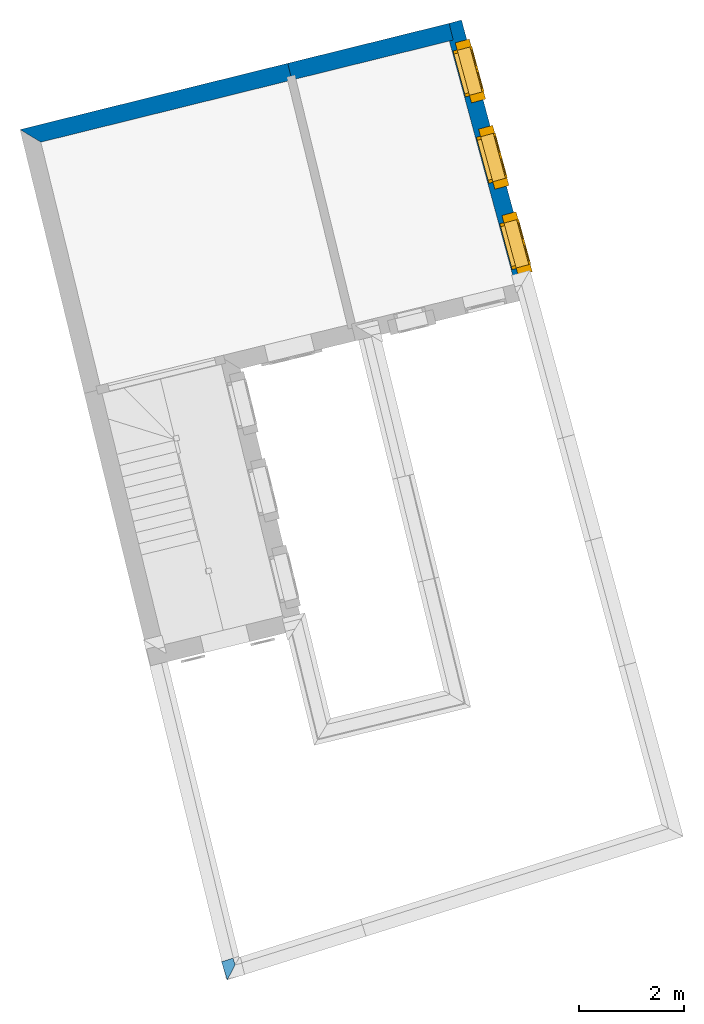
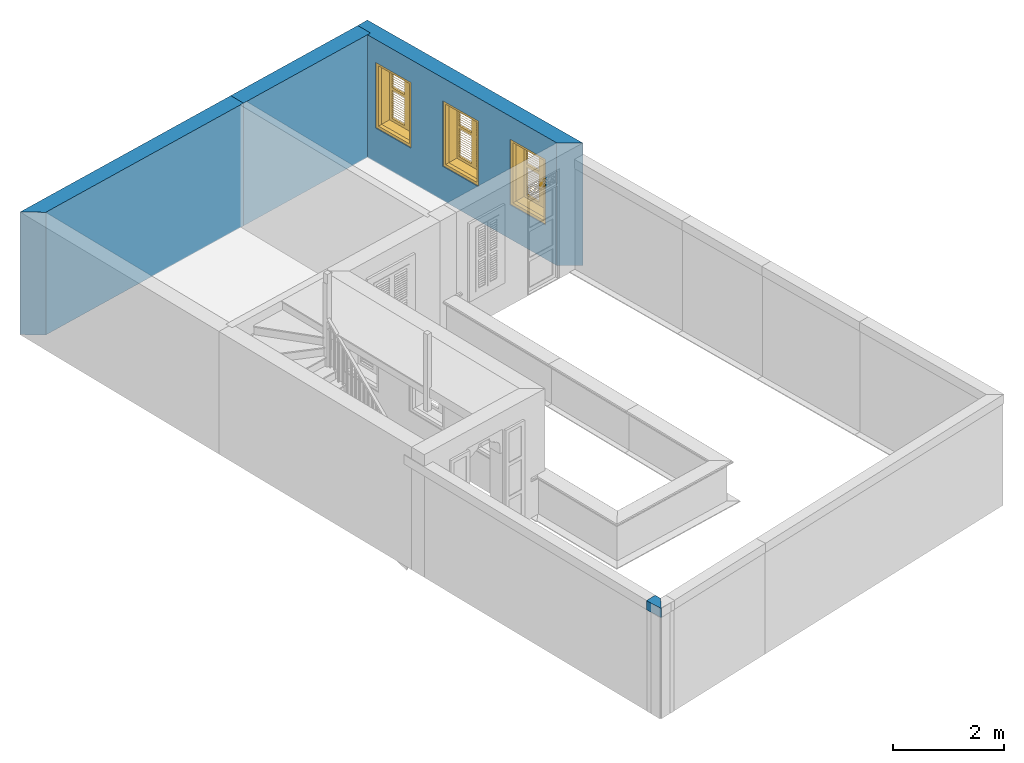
# One storey, part 8 of 9: 4 walls, 3 windows, 3 openings.
"""IFC4 building model written with IfcOpenShell, lengths in metres."""

from ifc_helpers import new_model, si_unit, frame, origin, origin_with_axes, place, context, subcontext, project, spatial, polyline, outline, extrude, clip, halfspace, faceted_brep, source, transform, mapped, material, layer, layer_set, layer_usage, material_profile, profile_set, profile_usage, type_object, type_shapes, element, fill, save


model = new_model("IFC4")

# Units and contexts
model_context = context("Model", 3, world=origin_with_axes())
body_context = subcontext(model_context, "Body", "Model", "MODEL_VIEW")
ifc_project = project(units=[si_unit("PLANEANGLEUNIT", "RADIAN"), si_unit("MASSUNIT", "GRAM", prefix="KILO"), si_unit("FORCEUNIT", "NEWTON", prefix="KILO"), si_unit("LENGTHUNIT", "METRE"), si_unit("AREAUNIT", "SQUARE_METRE"), si_unit("VOLUMEUNIT", "CUBIC_METRE")], contexts=[model_context, model_context])

# Site, building, storey
site_placement = place(None, origin_with_axes())
site = spatial("IfcSite", under=ifc_project, at=site_placement, Name="Site plot-4", CompositionType="ELEMENT")
building_placement = place(None, origin_with_axes())
building = spatial("IfcBuilding", under=site, at=building_placement, Name="Building plot-4", CompositionType="ELEMENT")
storey_placement = place(None, frame((0.0, 0.0, 2.7), z_axis=(0.0, 0.0, 1.0), x_axis=(1.0, 0.0, 0.0)))
storey = spatial("IfcBuildingStorey", under=building, at=storey_placement, Name="plot-4 1", CompositionType="ELEMENT", Elevation=2.7)

# Wall, openings, windows
ifc_material_1 = material(Name="Masonry")
ifc_layer_1 = layer(ifc_material_1, 0.33, ventilated=False)
ifc_layer_set_1 = layer_set([ifc_layer_1], Name="exterior_0.08_0.25")
ifc_layer_usage_1 = layer_usage(ifc_layer_set_1, "AXIS2", "POSITIVE", -0.25)
wall_type_1 = type_object("IfcWallType", Name="exterior_0.08_0.25", PredefinedType="SOLIDWALL", material=ifc_layer_set_1)
wall_1_placement = place(storey_placement, frame((26.6183209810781, 16.4019264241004, 0.0), z_axis=(0.0, 0.0, 1.0), x_axis=(-0.261170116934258, 0.965292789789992, 0.0)))
wall_1 = element("IfcWall", 1, at=wall_1_placement, inside=storey, type_object=wall_type_1, material=ifc_layer_usage_1, Name="exterior", context=body_context, shape_type="SweptSolid", body=[
    extrude(outline(polyline([(0.0820550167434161, 0.0799999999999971), (-0.256421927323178, -0.249999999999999), (5.22469834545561, -0.250000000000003), (5.22469834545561, 0.0799999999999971), (0.0820550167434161, 0.0799999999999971)])), origin_with_axes(), (0.0, 0.0, 1.0), 2.7),
])
opening_1_placement = place(wall_1_placement, frame((0.364698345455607, 0.0, 0.75)))
opening_1 = element("IfcOpeningElement", 2, at=opening_1_placement, cuts=wall_1, Name="My Opening", ObjectType="Opening", context=body_context, shape_type="SweptSolid", body=[
    extrude(outline(polyline([(0.0, -0.27), (0.909999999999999, -0.270000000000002), (0.910000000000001, 1.1), (1.99840144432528e-15, 1.1), (0.0, -0.27)])), origin_with_axes(), (0.0, 0.0, 1.0), 1.445),
])
opening_2_placement = place(wall_1_placement, frame((2.0746983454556, 0.0, 0.75)))
opening_2 = element("IfcOpeningElement", 3, at=opening_2_placement, cuts=wall_1, Name="My Opening", ObjectType="Opening", context=body_context, shape_type="SweptSolid", body=[
    extrude(outline(polyline([(0.0, -0.269999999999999), (0.91, -0.270000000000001), (0.910000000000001, 1.1), (1.77635683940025e-15, 1.1), (0.0, -0.269999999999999)])), origin_with_axes(), (0.0, 0.0, 1.0), 1.445),
])
opening_3_placement = place(wall_1_placement, frame((3.7846983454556, 0.0, 0.75)))
opening_3 = element("IfcOpeningElement", 4, at=opening_3_placement, cuts=wall_1, Name="My Opening", ObjectType="Opening", context=body_context, shape_type="SweptSolid", body=[
    extrude(outline(polyline([(0.0, -0.269999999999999), (0.91, -0.270000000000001), (0.910000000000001, 1.1), (1.77635683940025e-15, 1.1), (0.0, -0.269999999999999)])), origin_with_axes(), (0.0, 0.0, 1.0), 1.445),
])
window_type = type_object("IfcWindowType", Name="shuttered_shorter", PartitioningType="DOUBLE_PANEL_HORIZONTAL", PredefinedType="NOTDEFINED")
shared_shape = source(origin(), body_context, "Body", "Brep", [
    faceted_brep([(0.393, 0.0, 0.622), (0.074, 0.0, 0.622), (0.074, 0.0, 0.632), (0.393, 0.0, 0.632), (0.074, -0.04, 0.592), (0.393, -0.04, 0.592), (0.393, -0.04, 0.582), (0.074, -0.04, 0.582), (0.517, 0.0, 0.682), (0.836, 0.0, 0.682), (0.836, 0.0, 0.672), (0.517, 0.0, 0.672), (0.517, -0.04, 0.642), (0.836, -0.04, 0.642), (0.836, -0.04, 0.632), (0.517, -0.04, 0.632), (0.517, 0.0, 0.632), (0.836, 0.0, 0.632), (0.836, 0.0, 0.622), (0.517, 0.0, 0.622), (0.517, -0.04, 0.592), (0.836, -0.04, 0.592), (0.836, -0.04, 0.582), (0.517, -0.04, 0.582), (0.517, 0.0, 0.232), (0.836, 0.0, 0.232), (0.836, 0.0, 0.222), (0.517, 0.0, 0.222), (0.517, -0.04, 0.192), (0.836, -0.04, 0.192), (0.836, -0.04, 0.182), (0.517, -0.04, 0.182), (0.517, 0.0, 0.532), (0.836, 0.0, 0.532), (0.836, 0.0, 0.522), (0.517, 0.0, 0.522), (0.517, -0.04, 0.492), (0.836, -0.04, 0.492), (0.836, -0.04, 0.482), (0.517, -0.04, 0.482), (0.517, 0.0, 0.482), (0.836, 0.0, 0.482), (0.836, 0.0, 0.472), (0.517, 0.0, 0.472), (0.517, -0.04, 0.442), (0.836, -0.04, 0.442), (0.836, -0.04, 0.432), (0.517, -0.04, 0.432), (0.517, 0.0, 0.582), (0.836, 0.0, 0.582), (0.836, 0.0, 0.572), (0.517, 0.0, 0.572), (0.517, -0.04, 0.542), (0.836, -0.04, 0.542), (0.836, -0.04, 0.532), (0.517, -0.04, 0.532), (0.517, 0.0, 0.182), (0.836, 0.0, 0.182), (0.836, 0.0, 0.172), (0.517, 0.0, 0.172), (0.517, -0.04, 0.142), (0.836, -0.04, 0.142), (0.836, -0.04, 0.132), (0.517, -0.04, 0.132), (0.517, 0.0, 0.382), (0.836, 0.0, 0.382), (0.836, 0.0, 0.372), (0.517, 0.0, 0.372), (0.517, -0.04, 0.342), (0.836, -0.04, 0.342), (0.836, -0.04, 0.332), (0.517, -0.04, 0.332), (0.517, 0.0, 0.432), (0.836, 0.0, 0.432), (0.836, 0.0, 0.422), (0.517, 0.0, 0.422), (0.517, -0.04, 0.392), (0.836, -0.04, 0.392), (0.836, -0.04, 0.382), (0.517, -0.04, 0.382), (0.517, 0.0, 0.132), (0.836, 0.0, 0.132), (0.836, 0.0, 0.122), (0.517, 0.0, 0.122), (0.517, -0.04, 0.092), (0.836, -0.04, 0.092), (0.836, -0.04, 0.082), (0.517, -0.04, 0.082), (0.517, 0.0, 0.282), (0.836, 0.0, 0.282), (0.836, 0.0, 0.272), (0.517, 0.0, 0.272), (0.517, -0.04, 0.242), (0.836, -0.04, 0.242), (0.836, -0.04, 0.232), (0.517, -0.04, 0.232), (0.517, 0.0, 0.332), (0.836, 0.0, 0.332), (0.836, 0.0, 0.322), (0.517, 0.0, 0.322), (0.517, -0.04, 0.292), (0.836, -0.04, 0.292), (0.836, -0.04, 0.282), (0.517, -0.04, 0.282), (0.517, 0.0, 1.362667), (0.836, 0.0, 1.362667), (0.836, 0.0, 1.352667), (0.517, 0.0, 1.352667), (0.517, -0.04, 1.322667), (0.836, -0.04, 1.322667), (0.836, -0.04, 1.312667), (0.517, -0.04, 1.312667), (0.517, 0.0, 1.312667), (0.836, 0.0, 1.312667), (0.836, 0.0, 1.302667), (0.517, 0.0, 1.302667), (0.517, -0.04, 1.272667), (0.836, -0.04, 1.272667), (0.836, -0.04, 1.262667), (0.517, -0.04, 1.262667), (0.517, 0.0, 0.912667), (0.836, 0.0, 0.912667), (0.836, 0.0, 0.902667), (0.517, 0.0, 0.902667), (0.517, -0.04, 0.872667), (0.836, -0.04, 0.872667), (0.836, -0.04, 0.862667), (0.517, -0.04, 0.862667), (0.517, 0.0, 1.212667), (0.836, 0.0, 1.212667), (0.836, 0.0, 1.202667), (0.517, 0.0, 1.202667), (0.517, -0.04, 1.172667), (0.836, -0.04, 1.172667), (0.836, -0.04, 1.162667), (0.517, -0.04, 1.162667), (0.517, 0.0, 1.162667), (0.836, 0.0, 1.162667), (0.836, 0.0, 1.152667), (0.517, 0.0, 1.152667), (0.517, -0.04, 1.122667), (0.836, -0.04, 1.122667), (0.836, -0.04, 1.112667), (0.517, -0.04, 1.112667), (0.517, 0.0, 1.262667), (0.836, 0.0, 1.262667), (0.836, 0.0, 1.252667), (0.517, 0.0, 1.252667), (0.517, -0.04, 1.222667), (0.836, -0.04, 1.222667), (0.836, -0.04, 1.212667), (0.517, -0.04, 1.212667), (0.517, 0.0, 0.862667), (0.836, 0.0, 0.862667), (0.836, 0.0, 0.852667), (0.517, 0.0, 0.852667), (0.517, -0.04, 0.822667), (0.836, -0.04, 0.822667), (0.836, -0.04, 0.812667), (0.517, -0.04, 0.812667), (0.517, 0.0, 1.062667), (0.836, 0.0, 1.062667), (0.836, 0.0, 1.052667), (0.517, 0.0, 1.052667), (0.517, -0.04, 1.022667), (0.836, -0.04, 1.022667), (0.836, -0.04, 1.012667), (0.517, -0.04, 1.012667), (0.517, 0.0, 1.112667), (0.836, 0.0, 1.112667), (0.836, 0.0, 1.102667), (0.517, 0.0, 1.102667), (0.517, -0.04, 1.072667), (0.836, -0.04, 1.072667), (0.836, -0.04, 1.062667), (0.517, -0.04, 1.062667), (0.517, 0.0, 0.812667), (0.836, 0.0, 0.812667), (0.836, 0.0, 0.802667), (0.517, 0.0, 0.802667), (0.517, -0.04, 0.772667), (0.836, -0.04, 0.772667), (0.836, -0.04, 0.762667), (0.517, -0.04, 0.762667), (0.517, 0.0, 0.962667), (0.836, 0.0, 0.962667), (0.836, 0.0, 0.952667), (0.517, 0.0, 0.952667), (0.517, -0.04, 0.922667), (0.836, -0.04, 0.922667), (0.836, -0.04, 0.912667), (0.517, -0.04, 0.912667), (0.517, 0.0, 1.012667), (0.836, 0.0, 1.012667), (0.836, 0.0, 1.002667), (0.517, 0.0, 1.002667), (0.517, -0.04, 0.972667), (0.836, -0.04, 0.972667), (0.836, -0.04, 0.962667), (0.517, -0.04, 0.962667), (0.074, 0.0, 0.682), (0.393, 0.0, 0.682), (0.393, 0.0, 0.672), (0.074, 0.0, 0.672), (0.074, -0.04, 0.642), (0.393, -0.04, 0.642), (0.393, -0.04, 0.632), (0.074, -0.04, 0.632), (0.074, 0.0, 0.232), (0.393, 0.0, 0.232), (0.393, 0.0, 0.222), (0.074, 0.0, 0.222), (0.074, -0.04, 0.192), (0.393, -0.04, 0.192), (0.393, -0.04, 0.182), (0.074, -0.04, 0.182), (0.074, 0.0, 0.532), (0.393, 0.0, 0.532), (0.393, 0.0, 0.522), (0.074, 0.0, 0.522), (0.074, -0.04, 0.492), (0.393, -0.04, 0.492), (0.393, -0.04, 0.482), (0.074, -0.04, 0.482), (0.074, 0.0, 0.482), (0.393, 0.0, 0.482), (0.393, 0.0, 0.472), (0.074, 0.0, 0.472), (0.074, -0.04, 0.442), (0.393, -0.04, 0.442), (0.393, -0.04, 0.432), (0.074, -0.04, 0.432), (0.074, 0.0, 0.582), (0.393, 0.0, 0.582), (0.393, 0.0, 0.572), (0.074, 0.0, 0.572), (0.074, -0.04, 0.542), (0.393, -0.04, 0.542), (0.393, -0.04, 0.532), (0.074, -0.04, 0.532), (0.074, 0.0, 0.182), (0.393, 0.0, 0.182), (0.393, 0.0, 0.172), (0.074, 0.0, 0.172), (0.074, -0.04, 0.142), (0.393, -0.04, 0.142), (0.393, -0.04, 0.132), (0.074, -0.04, 0.132), (0.074, 0.0, 0.382), (0.393, 0.0, 0.382), (0.393, 0.0, 0.372), (0.074, 0.0, 0.372), (0.074, -0.04, 0.342), (0.393, -0.04, 0.342), (0.393, -0.04, 0.332), (0.074, -0.04, 0.332), (0.074, 0.0, 0.432), (0.393, 0.0, 0.432), (0.393, 0.0, 0.422), (0.074, 0.0, 0.422), (0.074, -0.04, 0.392), (0.393, -0.04, 0.392), (0.393, -0.04, 0.382), (0.074, -0.04, 0.382), (0.074, 0.0, 0.132), (0.393, 0.0, 0.132), (0.393, 0.0, 0.122), (0.074, 0.0, 0.122), (0.074, -0.04, 0.092), (0.393, -0.04, 0.092), (0.393, -0.04, 0.082), (0.074, -0.04, 0.082), (0.074, 0.0, 0.282), (0.393, 0.0, 0.282), (0.393, 0.0, 0.272), (0.074, 0.0, 0.272), (0.074, -0.04, 0.242), (0.393, -0.04, 0.242), (0.393, -0.04, 0.232), (0.074, -0.04, 0.232), (0.074, 0.0, 0.332), (0.393, 0.0, 0.332), (0.393, 0.0, 0.322), (0.074, 0.0, 0.322), (0.074, -0.04, 0.292), (0.393, -0.04, 0.292), (0.393, -0.04, 0.282), (0.074, -0.04, 0.282), (0.074, 0.0, 1.362667), (0.393, 0.0, 1.362667), (0.393, 0.0, 1.352667), (0.074, 0.0, 1.352667), (0.074, -0.04, 1.322667), (0.393, -0.04, 1.322667), (0.393, -0.04, 1.312667), (0.074, -0.04, 1.312667), (0.074, 0.0, 1.312667), (0.393, 0.0, 1.312667), (0.393, 0.0, 1.302667), (0.074, 0.0, 1.302667), (0.074, -0.04, 1.272667), (0.393, -0.04, 1.272667), (0.393, -0.04, 1.262667), (0.074, -0.04, 1.262667), (0.074, 0.0, 0.912667), (0.393, 0.0, 0.912667), (0.393, 0.0, 0.902667), (0.074, 0.0, 0.902667), (0.074, -0.04, 0.872667), (0.393, -0.04, 0.872667), (0.393, -0.04, 0.862667), (0.074, -0.04, 0.862667), (0.074, 0.0, 1.212667), (0.393, 0.0, 1.212667), (0.393, 0.0, 1.202667), (0.074, 0.0, 1.202667), (0.074, -0.04, 1.172667), (0.393, -0.04, 1.172667), (0.393, -0.04, 1.162667), (0.074, -0.04, 1.162667), (0.074, 0.0, 1.162667), (0.393, 0.0, 1.162667), (0.393, 0.0, 1.152667), (0.074, 0.0, 1.152667), (0.074, -0.04, 1.122667), (0.393, -0.04, 1.122667), (0.393, -0.04, 1.112667), (0.074, -0.04, 1.112667), (0.074, 0.0, 1.262667), (0.393, 0.0, 1.262667), (0.393, 0.0, 1.252667), (0.074, 0.0, 1.252667), (0.074, -0.04, 1.222667), (0.393, -0.04, 1.222667), (0.393, -0.04, 1.212667), (0.074, -0.04, 1.212667), (0.074, 0.0, 0.862667), (0.393, 0.0, 0.862667), (0.393, 0.0, 0.852667), (0.074, 0.0, 0.852667), (0.074, -0.04, 0.822667), (0.393, -0.04, 0.822667), (0.393, -0.04, 0.812667), (0.074, -0.04, 0.812667), (0.074, 0.0, 1.062667), (0.393, 0.0, 1.062667), (0.393, 0.0, 1.052667), (0.074, 0.0, 1.052667), (0.074, -0.04, 1.022667), (0.393, -0.04, 1.022667), (0.393, -0.04, 1.012667), (0.074, -0.04, 1.012667), (0.074, 0.0, 1.112667), (0.393, 0.0, 1.112667), (0.393, 0.0, 1.102667), (0.074, 0.0, 1.102667), (0.074, -0.04, 1.072667), (0.393, -0.04, 1.072667), (0.393, -0.04, 1.062667), (0.074, -0.04, 1.062667), (0.074, 0.0, 0.812667), (0.393, 0.0, 0.812667), (0.393, 0.0, 0.802667), (0.074, 0.0, 0.802667), (0.074, -0.04, 0.772667), (0.393, -0.04, 0.772667), (0.393, -0.04, 0.762667), (0.074, -0.04, 0.762667), (0.074, 0.0, 0.962667), (0.393, 0.0, 0.962667), (0.393, 0.0, 0.952667), (0.074, 0.0, 0.952667), (0.074, -0.04, 0.922667), (0.393, -0.04, 0.922667), (0.393, -0.04, 0.912667), (0.074, -0.04, 0.912667), (0.074, 0.0, 1.012667), (0.393, 0.0, 1.012667), (0.393, 0.0, 1.002667), (0.074, 0.0, 1.002667), (0.074, -0.04, 0.972667), (0.393, -0.04, 0.972667), (0.393, -0.04, 0.962667), (0.074, -0.04, 0.962667), (0.517, -0.04, 0.072), (0.457, -0.04, 0.012), (0.896, -0.04, 0.012), (0.836, -0.04, 0.072), (0.457, -0.04, 0.692667), (0.517, -0.04, 0.692667), (0.457, 0.0, 0.012), (0.896, 0.0, 0.012), (0.836, -0.04, 0.692667), (0.896, -0.04, 0.692667), (0.836, 0.0, 0.072), (0.517, 0.0, 0.072), (0.457, 0.0, 0.692667), (0.517, 0.0, 0.692667), (0.517, -0.04, 0.752666), (0.457, -0.04, 0.752666), (0.896, 0.0, 0.692667), (0.836, 0.0, 0.692667), (0.836, -0.04, 0.752666), (0.896, -0.04, 0.752666), (0.457, 0.0, 0.752666), (0.457, -0.04, 1.433333), (0.517, -0.04, 1.373333), (0.896, 0.0, 0.752666), (0.836, -0.04, 1.373333), (0.896, -0.04, 1.433333), (0.457, 0.0, 1.433333), (0.517, 0.0, 0.752666), (0.836, 0.0, 0.752666), (0.517, 0.0, 1.373333), (0.896, 0.0, 1.433333), (0.836, 0.0, 1.373333), (0.074, -0.04, 0.072), (0.014, -0.04, 0.012), (0.453, -0.04, 0.012), (0.393, -0.04, 0.072), (0.014, -0.04, 0.692667), (0.074, -0.04, 0.692667), (0.014, 0.0, 0.012), (0.453, 0.0, 0.012), (0.393, -0.04, 0.692667), (0.453, -0.04, 0.692667), (0.393, 0.0, 0.072), (0.074, 0.0, 0.072), (0.014, 0.0, 0.692667), (0.074, 0.0, 0.692667), (0.074, -0.04, 0.752666), (0.014, -0.04, 0.752666), (0.453, 0.0, 0.692667), (0.393, 0.0, 0.692667), (0.393, -0.04, 0.752666), (0.453, -0.04, 0.752666), (0.014, 0.0, 0.752666), (0.014, -0.04, 1.433333), (0.074, -0.04, 1.373333), (0.453, 0.0, 0.752666), (0.393, -0.04, 1.373333), (0.453, -0.04, 1.433333), (0.014, 0.0, 1.433333), (0.074, 0.0, 0.752666), (0.393, 0.0, 0.752666), (0.074, 0.0, 1.373333), (0.453, 0.0, 1.433333), (0.393, 0.0, 1.373333), (0.0, 0.33, 1.445), (0.91, 0.33, 1.445), (0.85, 0.33, 1.385), (0.06, 0.33, 1.385), (0.91, 0.25, 1.445), (0.0, 0.25, 1.445), (0.91, 0.25, 1.445), (0.85, 0.33, 0.06), (0.91, 0.33, 0.0), (0.85, 0.25, 1.385), (0.06, 0.25, 1.385), (0.0, 0.33, 0.0), (0.06, 0.33, 0.06), (0.0, 0.25, 0.0), (0.91, 0.25, 0.0), (0.85, 0.25, 0.06), (0.06, 0.25, 0.06), (1.05, 0.25, 1.585), (-0.14, 0.25, 1.585), (-0.14, -0.03, 1.585), (1.05, -0.03, 1.585), (0.9, -0.03, 1.435), (0.01, -0.03, 1.435), (0.01, 0.25, 1.435), (0.9, 0.25, 1.435), (0.9, 0.25, 0.01), (0.9, -0.03, 0.01), (1.05, -0.03, -0.14), (1.05, 0.25, -0.14), (0.01, -0.03, 0.01), (0.01, 0.25, 0.01), (-0.14, -0.03, -0.14), (-0.14, 0.25, -0.14)], [[[0, 1, 2, 3]], [[4, 5, 3, 2]], [[5, 6, 0, 3]], [[1, 0, 6, 7]], [[2, 1, 7, 4]], [[5, 4, 7, 6]], [[8, 9, 10, 11]], [[12, 13, 9, 8]], [[13, 14, 10, 9]], [[14, 15, 11, 10]], [[15, 12, 8, 11]], [[13, 12, 15, 14]], [[16, 17, 18, 19]], [[20, 21, 17, 16]], [[21, 22, 18, 17]], [[22, 23, 19, 18]], [[23, 20, 16, 19]], [[21, 20, 23, 22]], [[24, 25, 26, 27]], [[28, 29, 25, 24]], [[29, 30, 26, 25]], [[30, 31, 27, 26]], [[31, 28, 24, 27]], [[29, 28, 31, 30]], [[32, 33, 34, 35]], [[36, 37, 33, 32]], [[37, 38, 34, 33]], [[38, 39, 35, 34]], [[39, 36, 32, 35]], [[37, 36, 39, 38]], [[40, 41, 42, 43]], [[44, 45, 41, 40]], [[45, 46, 42, 41]], [[46, 47, 43, 42]], [[47, 44, 40, 43]], [[45, 44, 47, 46]], [[48, 49, 50, 51]], [[52, 53, 49, 48]], [[53, 54, 50, 49]], [[54, 55, 51, 50]], [[55, 52, 48, 51]], [[53, 52, 55, 54]], [[56, 57, 58, 59]], [[60, 61, 57, 56]], [[61, 62, 58, 57]], [[62, 63, 59, 58]], [[63, 60, 56, 59]], [[61, 60, 63, 62]], [[64, 65, 66, 67]], [[68, 69, 65, 64]], [[69, 70, 66, 65]], [[70, 71, 67, 66]], [[71, 68, 64, 67]], [[69, 68, 71, 70]], [[72, 73, 74, 75]], [[76, 77, 73, 72]], [[77, 78, 74, 73]], [[78, 79, 75, 74]], [[79, 76, 72, 75]], [[77, 76, 79, 78]], [[80, 81, 82, 83]], [[84, 85, 81, 80]], [[85, 86, 82, 81]], [[86, 87, 83, 82]], [[87, 84, 80, 83]], [[85, 84, 87, 86]], [[88, 89, 90, 91]], [[92, 93, 89, 88]], [[93, 94, 90, 89]], [[94, 95, 91, 90]], [[95, 92, 88, 91]], [[93, 92, 95, 94]], [[96, 97, 98, 99]], [[100, 101, 97, 96]], [[101, 102, 98, 97]], [[102, 103, 99, 98]], [[103, 100, 96, 99]], [[101, 100, 103, 102]], [[104, 105, 106, 107]], [[108, 109, 105, 104]], [[109, 110, 106, 105]], [[110, 111, 107, 106]], [[111, 108, 104, 107]], [[109, 108, 111, 110]], [[112, 113, 114, 115]], [[116, 117, 113, 112]], [[117, 118, 114, 113]], [[118, 119, 115, 114]], [[119, 116, 112, 115]], [[117, 116, 119, 118]], [[120, 121, 122, 123]], [[124, 125, 121, 120]], [[125, 126, 122, 121]], [[126, 127, 123, 122]], [[127, 124, 120, 123]], [[125, 124, 127, 126]], [[128, 129, 130, 131]], [[132, 133, 129, 128]], [[133, 134, 130, 129]], [[134, 135, 131, 130]], [[135, 132, 128, 131]], [[133, 132, 135, 134]], [[136, 137, 138, 139]], [[140, 141, 137, 136]], [[141, 142, 138, 137]], [[142, 143, 139, 138]], [[139, 143, 140, 136]], [[141, 140, 143, 142]], [[144, 145, 146, 147]], [[148, 149, 145, 144]], [[149, 150, 146, 145]], [[150, 151, 147, 146]], [[151, 148, 144, 147]], [[149, 148, 151, 150]], [[152, 153, 154, 155]], [[156, 157, 153, 152]], [[157, 158, 154, 153]], [[158, 159, 155, 154]], [[159, 156, 152, 155]], [[157, 156, 159, 158]], [[160, 161, 162, 163]], [[164, 165, 161, 160]], [[165, 166, 162, 161]], [[166, 167, 163, 162]], [[167, 164, 160, 163]], [[165, 164, 167, 166]], [[168, 169, 170, 171]], [[172, 173, 169, 168]], [[173, 174, 170, 169]], [[174, 175, 171, 170]], [[175, 172, 168, 171]], [[173, 172, 175, 174]], [[176, 177, 178, 179]], [[180, 181, 177, 176]], [[181, 182, 178, 177]], [[182, 183, 179, 178]], [[183, 180, 176, 179]], [[181, 180, 183, 182]], [[184, 185, 186, 187]], [[188, 189, 185, 184]], [[189, 190, 186, 185]], [[190, 191, 187, 186]], [[191, 188, 184, 187]], [[189, 188, 191, 190]], [[192, 193, 194, 195]], [[196, 197, 193, 192]], [[197, 198, 194, 193]], [[198, 199, 195, 194]], [[199, 196, 192, 195]], [[197, 196, 199, 198]], [[200, 201, 202, 203]], [[204, 205, 201, 200]], [[205, 206, 202, 201]], [[206, 207, 203, 202]], [[207, 204, 200, 203]], [[205, 204, 207, 206]], [[208, 209, 210, 211]], [[212, 213, 209, 208]], [[213, 214, 210, 209]], [[214, 215, 211, 210]], [[215, 212, 208, 211]], [[213, 212, 215, 214]], [[216, 217, 218, 219]], [[220, 221, 217, 216]], [[221, 222, 218, 217]], [[222, 223, 219, 218]], [[223, 220, 216, 219]], [[221, 220, 223, 222]], [[224, 225, 226, 227]], [[228, 229, 225, 224]], [[229, 230, 226, 225]], [[230, 231, 227, 226]], [[231, 228, 224, 227]], [[229, 228, 231, 230]], [[232, 233, 234, 235]], [[236, 237, 233, 232]], [[237, 238, 234, 233]], [[238, 239, 235, 234]], [[239, 236, 232, 235]], [[237, 236, 239, 238]], [[240, 241, 242, 243]], [[244, 245, 241, 240]], [[245, 246, 242, 241]], [[246, 247, 243, 242]], [[247, 244, 240, 243]], [[245, 244, 247, 246]], [[248, 249, 250, 251]], [[252, 253, 249, 248]], [[253, 254, 250, 249]], [[254, 255, 251, 250]], [[255, 252, 248, 251]], [[253, 252, 255, 254]], [[256, 257, 258, 259]], [[260, 261, 257, 256]], [[261, 262, 258, 257]], [[262, 263, 259, 258]], [[263, 260, 256, 259]], [[261, 260, 263, 262]], [[264, 265, 266, 267]], [[268, 269, 265, 264]], [[269, 270, 266, 265]], [[270, 271, 267, 266]], [[271, 268, 264, 267]], [[269, 268, 271, 270]], [[272, 273, 274, 275]], [[276, 277, 273, 272]], [[277, 278, 274, 273]], [[278, 279, 275, 274]], [[279, 276, 272, 275]], [[277, 276, 279, 278]], [[280, 281, 282, 283]], [[284, 285, 281, 280]], [[285, 286, 282, 281]], [[286, 287, 283, 282]], [[287, 284, 280, 283]], [[285, 284, 287, 286]], [[288, 289, 290, 291]], [[292, 293, 289, 288]], [[293, 294, 290, 289]], [[294, 295, 291, 290]], [[295, 292, 288, 291]], [[293, 292, 295, 294]], [[296, 297, 298, 299]], [[300, 301, 297, 296]], [[301, 302, 298, 297]], [[302, 303, 299, 298]], [[303, 300, 296, 299]], [[301, 300, 303, 302]], [[304, 305, 306, 307]], [[308, 309, 305, 304]], [[309, 310, 306, 305]], [[310, 311, 307, 306]], [[311, 308, 304, 307]], [[309, 308, 311, 310]], [[312, 313, 314, 315]], [[316, 317, 313, 312]], [[317, 318, 314, 313]], [[318, 319, 315, 314]], [[319, 316, 312, 315]], [[317, 316, 319, 318]], [[320, 321, 322, 323]], [[324, 325, 321, 320]], [[325, 326, 322, 321]], [[326, 327, 323, 322]], [[327, 324, 320, 323]], [[325, 324, 327, 326]], [[328, 329, 330, 331]], [[332, 333, 329, 328]], [[333, 334, 330, 329]], [[334, 335, 331, 330]], [[335, 332, 328, 331]], [[333, 332, 335, 334]], [[336, 337, 338, 339]], [[340, 341, 337, 336]], [[341, 342, 338, 337]], [[342, 343, 339, 338]], [[343, 340, 336, 339]], [[341, 340, 343, 342]], [[344, 345, 346, 347]], [[348, 349, 345, 344]], [[349, 350, 346, 345]], [[350, 351, 347, 346]], [[351, 348, 344, 347]], [[349, 348, 351, 350]], [[352, 353, 354, 355]], [[356, 357, 353, 352]], [[357, 358, 354, 353]], [[358, 359, 355, 354]], [[359, 356, 352, 355]], [[357, 356, 359, 358]], [[360, 361, 362, 363]], [[364, 365, 361, 360]], [[365, 366, 362, 361]], [[366, 367, 363, 362]], [[367, 364, 360, 363]], [[365, 364, 367, 366]], [[368, 369, 370, 371]], [[372, 373, 369, 368]], [[373, 374, 370, 369]], [[374, 375, 371, 370]], [[375, 372, 368, 371]], [[373, 372, 375, 374]], [[376, 377, 378, 379]], [[380, 381, 377, 376]], [[381, 382, 378, 377]], [[382, 383, 379, 378]], [[383, 380, 376, 379]], [[381, 380, 383, 382]], [[384, 385, 386, 387]], [[388, 385, 384, 389]], [[390, 391, 386, 385]], [[392, 387, 386, 393]], [[384, 387, 394, 395]], [[390, 385, 388, 396]], [[389, 384, 395, 397]], [[389, 398, 399, 388]], [[390, 395, 394, 391]], [[400, 393, 386, 391]], [[387, 392, 401, 394]], [[402, 392, 393, 403]], [[396, 388, 399, 404]], [[390, 396, 397, 395]], [[392, 389, 397, 401]], [[398, 389, 392, 402]], [[405, 399, 398, 406]], [[394, 401, 400, 391]], [[407, 403, 393, 400]], [[408, 402, 403, 409]], [[404, 399, 405, 410]], [[411, 397, 396, 404]], [[397, 411, 412, 401]], [[398, 402, 412, 411]], [[406, 398, 411, 413]], [[405, 406, 408, 409]], [[401, 412, 407, 400]], [[414, 409, 403, 407]], [[402, 408, 415, 412]], [[405, 409, 414, 410]], [[404, 410, 413, 411]], [[408, 406, 413, 415]], [[412, 415, 414, 407]], [[413, 410, 414, 415]], [[416, 417, 418, 419]], [[420, 417, 416, 421]], [[422, 423, 418, 417]], [[424, 419, 418, 425]], [[416, 419, 426, 427]], [[422, 417, 420, 428]], [[421, 416, 427, 429]], [[421, 430, 431, 420]], [[422, 427, 426, 423]], [[432, 425, 418, 423]], [[419, 424, 433, 426]], [[434, 424, 425, 435]], [[428, 420, 431, 436]], [[422, 428, 429, 427]], [[424, 421, 429, 433]], [[430, 421, 424, 434]], [[437, 431, 430, 438]], [[426, 433, 432, 423]], [[439, 435, 425, 432]], [[440, 434, 435, 441]], [[436, 431, 437, 442]], [[443, 429, 428, 436]], [[429, 443, 444, 433]], [[430, 434, 444, 443]], [[438, 430, 443, 445]], [[437, 438, 440, 441]], [[433, 444, 439, 432]], [[446, 441, 435, 439]], [[434, 440, 447, 444]], [[437, 441, 446, 442]], [[436, 442, 445, 443]], [[440, 438, 445, 447]], [[444, 447, 446, 439]], [[445, 442, 446, 447]], [[448, 449, 450, 451]], [[452, 449, 448]], [[448, 453, 454]], [[448, 454, 452]], [[455, 450, 449, 456]], [[451, 450, 457, 458]], [[459, 448, 451, 460]], [[448, 459, 461, 453]], [[454, 453, 458, 457]], [[462, 452, 454]], [[454, 457, 463]], [[454, 463, 462]], [[456, 449, 452, 462]], [[450, 455, 463, 457]], [[456, 459, 460, 455]], [[460, 451, 458, 464]], [[459, 456, 462, 461]], [[464, 458, 453, 461]], [[461, 462, 463, 464]], [[455, 460, 464, 463]], [[465, 466, 467, 468]], [[469, 470, 471, 472]], [[473, 474, 469, 472]], [[465, 468, 475, 476]], [[470, 477, 478, 471]], [[474, 473, 478, 477]], [[474, 477, 479, 475]], [[470, 467, 479, 477]], [[470, 469, 468, 467]], [[474, 475, 468, 469]], [[471, 478, 480, 466]], [[473, 472, 465, 476]], [[473, 476, 480, 478]], [[466, 465, 472, 471]], [[480, 476, 475, 479]], [[480, 479, 467, 466]]]),
])
type_shapes(window_type, [shared_shape])
window_1_placement = place(storey_placement, frame((26.783701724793, 16.8244830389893, 0.75), z_axis=(0.0, 0.0, 1.0), x_axis=(-0.237664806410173, 0.878416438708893, 0.0)))
window_1 = element("IfcWindow", 5, at=window_1_placement, inside=storey, type_object=window_type, Name="bedroom outside window", OverallHeight=1.445, OverallWidth=0.91, context=body_context, shape_type="MappedRepresentation", body=[
    mapped(shared_shape, transform((0.0, 0.0, 0.0), scale=1.0)),
])
fill(opening_1, window_1)
window_2_placement = place(storey_placement, frame((26.3371008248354, 18.4751337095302, 0.75), z_axis=(0.0, 0.0, 1.0), x_axis=(-0.237664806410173, 0.878416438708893, 0.0)))
window_2 = element("IfcWindow", 6, at=window_2_placement, inside=storey, type_object=window_type, Name="bedroom outside window", OverallHeight=1.445, OverallWidth=0.91, context=body_context, shape_type="MappedRepresentation", body=[
    mapped(shared_shape, transform((0.0, 0.0, 0.0), scale=1.0)),
])
fill(opening_2, window_2)
window_3_placement = place(storey_placement, frame((25.8904999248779, 20.1257843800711, 0.75), z_axis=(0.0, 0.0, 1.0), x_axis=(-0.237664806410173, 0.878416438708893, 0.0)))
window_3 = element("IfcWindow", 7, at=window_3_placement, inside=storey, type_object=window_type, Name="bedroom outside window", OverallHeight=1.445, OverallWidth=0.91, context=body_context, shape_type="MappedRepresentation", body=[
    mapped(shared_shape, transform((0.0, 0.0, 0.0), scale=1.0)),
])
fill(opening_3, window_3)

# Walls
ifc_material_2 = material(Name="Masonry")
ifc_layer_2 = layer(ifc_material_2, 0.33, ventilated=False)
ifc_layer_set_2 = layer_set([ifc_layer_2], Name="party_0.08_0.25")
ifc_layer_usage_2 = layer_usage(ifc_layer_set_2, "AXIS2", "POSITIVE", -0.25)
wall_type_2 = type_object("IfcWallType", Name="party_0.08_0.25", PredefinedType="SOLIDWALL", material=ifc_layer_set_2)
wall_2_placement = place(storey_placement, frame((25.3190784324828, 21.2039668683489, 0.0), z_axis=(0.0, 0.0, 1.0), x_axis=(-0.970711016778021, -0.240250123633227, 0.0)))
element("IfcWall", 8, at=wall_2_placement, inside=storey, type_object=wall_type_2, material=ifc_layer_usage_2, Name="party", context=body_context, shape_type="SweptSolid", body=[
    extrude(outline(polyline([(-1.15156413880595e-15, 0.0800000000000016), (6.8144189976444e-16, -0.250000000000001), (3.17907598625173, -0.250000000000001), (3.17907598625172, 0.0800000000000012), (-1.15156413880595e-15, 0.0800000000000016)])), origin_with_axes(), (0.0, 0.0, 1.0), 2.7),
])
wall_3_placement = place(storey_placement, frame((22.2331143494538, 20.4401934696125, 0.0), z_axis=(0.0, 0.0, 1.0), x_axis=(-0.97071101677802, -0.240250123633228, 0.0)))
element("IfcWall", 9, at=wall_3_placement, inside=storey, type_object=wall_type_2, material=ifc_layer_usage_2, Name="party", context=body_context, shape_type="SweptSolid", body=[
    extrude(outline(polyline([(-1.00945559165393e-15, 0.0800000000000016), (3.48374992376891e-16, -0.250000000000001), (5.27301141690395, -0.250000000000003), (4.94424657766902, 0.0800000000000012), (-1.00945559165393e-15, 0.0800000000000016)])), origin_with_axes(), (0.0, 0.0, 1.0), 2.7),
])
ifc_material_profile = material_profile(None, outline(polyline([(0.265, 2.245), (0.265, 2.445), (0.035, 2.445), (0.035, 2.245), (0.265, 2.245)])))
ifc_profile_set = profile_set([ifc_material_profile])
ifc_profile_usage = profile_usage(ifc_profile_set)
wall_type_3 = type_object("IfcWallType", Name="parapet street_1", PredefinedType="PARAPET", material=ifc_profile_set)
wall_4_placement = place(storey_placement, frame((21.4903498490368, 2.53605363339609, 0.0), z_axis=(-0.300188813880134, 0.953879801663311, 0.0), x_axis=(-0.953879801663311, -0.300188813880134, 0.0)))
element("IfcWall", 10, at=wall_4_placement, inside=storey, type_object=wall_type_3, material=ifc_profile_usage, Name="parapet street_1", context=body_context, shape_type="Clipping", body=[
    clip(clip(extrude(outline(polyline([(0.265, 2.245), (0.265, 2.445), (0.035, 2.445), (0.035, 2.245), (0.265, 2.245)])), origin_with_axes(), (0.0, 0.0, 1.0), 2.1), halfspace(frame((0.0, 0.0, 1.1), z_axis=(3.82856869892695e-16, 0.0, -1.0), x_axis=(0.0, 1.0, 0.0)), True)), halfspace(frame((0.0, 0.0, 1.0), z_axis=(-0.707106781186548, 0.0, -0.707106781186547), x_axis=(0.0, 1.0, 0.0)), False)),
])

save(model, "model.ifc")
